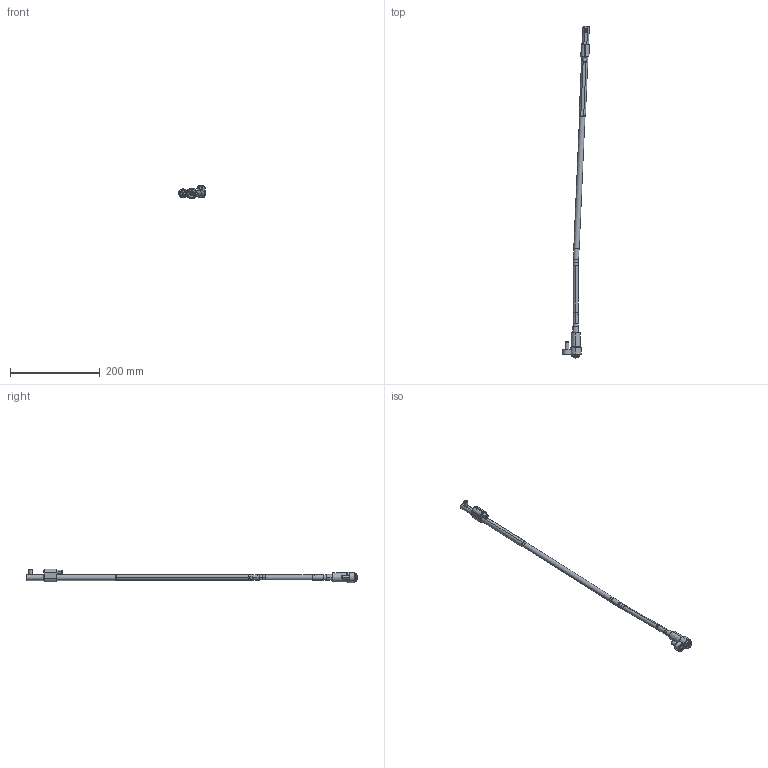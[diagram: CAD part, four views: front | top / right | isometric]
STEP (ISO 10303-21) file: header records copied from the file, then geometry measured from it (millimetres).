
FILE_DESCRIPTION (( 'STEP AP214' ), '1' );
FILE_NAME ('WL120100-INJ 2,5°.STEP', '2021-03-19T15:35:13', ( '' ), ( '' ), 'SwSTEP 2.0', 'SolidWorks 2019', '' );
FILE_SCHEMA (( 'AUTOMOTIVE_DESIGN' ));
Length unit declared in the file: millimetre
Products named in the file (17): WL120100-INJ 2,5°; Web-WL12-A1; Web-WL12-A8; 1DIN912645_DIN 912 M6 x 45 --- 45C; WL120100-D; Web-WL12-A2; WL120100-E; 1DIN912820_DIN 912 M8 x 20 --- 20C; 8WL12EJEP; Web-WL12-F01; 3IMAN5X3-150_con sellador; WL120100-B1; 9DR2808-TOR; Web-WL12-A3; Web-WL12-F00.SLDPRT; WL120100-B; Web-WL12-XX_OFF-WL120100-2,5
Assembly tree (16 placements, depth 3):
  WL120100-INJ 2,5°
    Web-WL12-A8
    Web-WL12-XX_OFF-WL120100-2,5
    Web-WL12-A3
    Web-WL12-A2
    Web-WL12-A1
    Web-WL12-F00.SLDPRT
      Web-WL12-F01
      1DIN912820_DIN 912 M8 x 20 --- 20C
      1DIN912645_DIN 912 M6 x 45 --- 45C
    WL120100-D
    8WL12EJEP
    WL120100-E
    9DR2808-TOR
    WL120100-B
      WL120100-B1
      3IMAN5X3-150_con sellador
Bounding box: 59.72 x 737.79 x 29.9 mm (x, y, z)
Volume: 113342.2 mm3; surface area: 49842.5 mm2
Topology: 15 solids, 15 shells, 432 faces, 906 edges, 525 vertices
Faces by surface type: plane 139, cylinder 123, cone 120, torus 50
Entity records: 13661 total; most frequent: DIRECTION 2240, CARTESIAN_POINT 2104, ORIENTED_EDGE 1788, AXIS2_PLACEMENT_3D 929, EDGE_CURVE 894, VERTEX_POINT 525, EDGE_LOOP 477, CIRCLE 476
